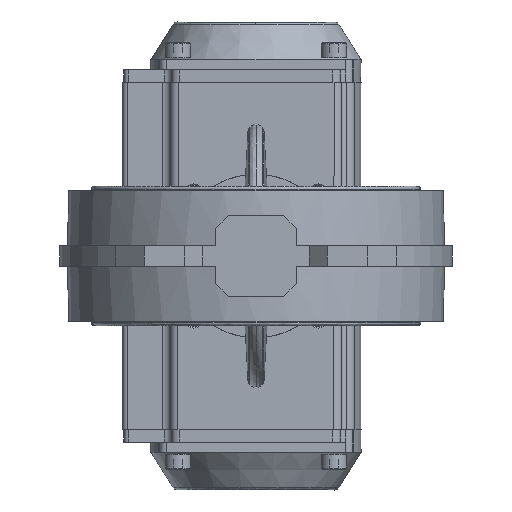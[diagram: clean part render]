
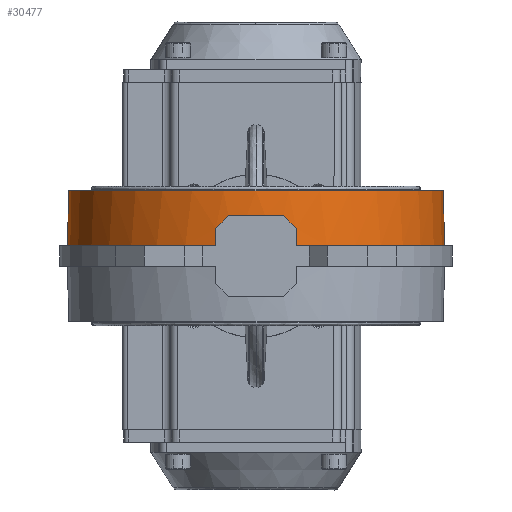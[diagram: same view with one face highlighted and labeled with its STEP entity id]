
A CAD part, front view. The second image highlights one B-rep face of the part: STEP entity #30477.
In plain terms, the highlighted conical face has half-angle 1 degrees and reference radius 74.884 mm.
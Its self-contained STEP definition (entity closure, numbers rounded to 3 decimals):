
#178 = CIRCLE ( 'NONE', #9711, 74.5 ) ;
#680 = VERTEX_POINT ( 'NONE', #68445 ) ;
#844 = CARTESIAN_POINT ( 'NONE',  ( 12.676, -73.64, 14.324 ) ) ;
#1044 = VERTEX_POINT ( 'NONE', #31276 ) ;
#2070 = VERTEX_POINT ( 'NONE', #33749 ) ;
#2642 = CARTESIAN_POINT ( 'NONE',  ( 16., -73.03, 11. ) ) ;
#3615 = VECTOR ( 'NONE', #9034, 1000. ) ;
#4183 = DIRECTION ( 'NONE',  ( -0.017, 0., -1. ) ) ;
#4397 = DIRECTION ( 'NONE',  ( -1., 0., 0. ) ) ;
#4438 = CARTESIAN_POINT ( 'NONE',  ( 16., -73.03, 11. ) ) ;
#7208 = CARTESIAN_POINT ( 'NONE',  ( 14.343, -73.363, 12.657 ) ) ;
#7360 = CARTESIAN_POINT ( 'NONE',  ( 0., 0., 4. ) ) ;
#8569 = CARTESIAN_POINT ( 'NONE',  ( -16., -73.071, 8.667 ) ) ;
#9034 = DIRECTION ( 'NONE',  ( 0.017, 0., -1. ) ) ;
#9626 = B_SPLINE_CURVE_WITH_KNOTS ( 'NONE', 3,
 ( #2642, #25768, #53783, #71325 ),
 .UNSPECIFIED., .F., .F.,
 ( 4, 4 ),
 ( 0., 0.007 ),
 .UNSPECIFIED. ) ;
#9711 = AXIS2_PLACEMENT_3D ( 'NONE', #10569, #38200, #54626 ) ;
#9748 = CARTESIAN_POINT ( 'NONE',  ( -74.884, 0., 4. ) ) ;
#9870 = EDGE_CURVE ( 'NONE', #10538, #52653, #53824, .T. ) ;
#10039 = CARTESIAN_POINT ( 'NONE',  ( -16., -73.03, 11. ) ) ;
#10538 = VERTEX_POINT ( 'NONE', #59213 ) ;
#10569 = CARTESIAN_POINT ( 'NONE',  ( 0., 0., 26. ) ) ;
#12746 = FACE_OUTER_BOUND ( 'NONE', #68097, .T. ) ;
#13728 = CARTESIAN_POINT ( 'NONE',  ( 74.884, 0., 4. ) ) ;
#13885 =( BOUNDED_CURVE ( )  B_SPLINE_CURVE ( 3, ( #29190, #844, #7208, #35158 ),
 .UNSPECIFIED., .F., .T. ) 
 B_SPLINE_CURVE_WITH_KNOTS ( ( 4, 4 ),
 ( 4.843, 4.911 ),
 .UNSPECIFIED. ) 
 CURVE ( )  GEOMETRIC_REPRESENTATION_ITEM ( )  RATIONAL_B_SPLINE_CURVE ( ( 1., 1., 1., 1. ) ) 
 REPRESENTATION_ITEM ( '' )  );
#16562 = ORIENTED_EDGE ( 'NONE', *, *, #33334, .T. ) ;
#19753 = CARTESIAN_POINT ( 'NONE',  ( -16., -73.113, 6.333 ) ) ;
#19978 = DIRECTION ( 'NONE',  ( 0., 0., 1. ) ) ;
#20006 = VERTEX_POINT ( 'NONE', #73046 ) ;
#22422 = AXIS2_PLACEMENT_3D ( 'NONE', #58236, #42566, #4397 ) ;
#24481 = EDGE_CURVE ( 'NONE', #680, #26305, #13885, .T. ) ;
#25357 = ORIENTED_EDGE ( 'NONE', *, *, #40774, .T. ) ;
#25704 = CARTESIAN_POINT ( 'NONE',  ( -11., -73.86, 16. ) ) ;
#25768 = CARTESIAN_POINT ( 'NONE',  ( 16., -73.071, 8.667 ) ) ;
#26305 = VERTEX_POINT ( 'NONE', #4438 ) ;
#26414 = ORIENTED_EDGE ( 'NONE', *, *, #37228, .T. ) ;
#26826 = CARTESIAN_POINT ( 'NONE',  ( -16., -73.155, 4. ) ) ;
#29190 = CARTESIAN_POINT ( 'NONE',  ( 11., -73.86, 16. ) ) ;
#29269 = ORIENTED_EDGE ( 'NONE', *, *, #24481, .T. ) ;
#29404 = CARTESIAN_POINT ( 'NONE',  ( -11., -73.86, 16. ) ) ;
#30477 = ADVANCED_FACE ( 'NONE', ( #12746 ), #34378, .T. ) ;
#30756 = VERTEX_POINT ( 'NONE', #32616 ) ;
#31133 = AXIS2_PLACEMENT_3D ( 'NONE', #62328, #57467, #62714 ) ;
#31276 = CARTESIAN_POINT ( 'NONE',  ( -74.884, 0., 4. ) ) ;
#32616 = CARTESIAN_POINT ( 'NONE',  ( -16., -73.155, 4. ) ) ;
#32652 = CARTESIAN_POINT ( 'NONE',  ( 0., 0., 16. ) ) ;
#33334 = EDGE_CURVE ( 'NONE', #70343, #1044, #50424, .T. ) ;
#33676 = B_SPLINE_CURVE_WITH_KNOTS ( 'NONE', 3,
 ( #26826, #19753, #8569, #10039 ),
 .UNSPECIFIED., .F., .F.,
 ( 4, 4 ),
 ( 0., 0.007 ),
 .UNSPECIFIED. ) ;
#33749 = CARTESIAN_POINT ( 'NONE',  ( 16., -73.155, 4. ) ) ;
#34341 = ORIENTED_EDGE ( 'NONE', *, *, #72262, .T. ) ;
#34378 = CONICAL_SURFACE ( 'NONE', #22422, 74.884, 0.017 ) ;
#35158 = CARTESIAN_POINT ( 'NONE',  ( 16., -73.03, 11. ) ) ;
#36438 = CARTESIAN_POINT ( 'NONE',  ( -74.5, 0., 26. ) ) ;
#36812 = DIRECTION ( 'NONE',  ( 0., 0., 1. ) ) ;
#37071 = EDGE_CURVE ( 'NONE', #2070, #52653, #63331, .T. ) ;
#37228 = EDGE_CURVE ( 'NONE', #20006, #67935, #45284, .T. ) ;
#38200 = DIRECTION ( 'NONE',  ( 0., 0., 1. ) ) ;
#38393 = CARTESIAN_POINT ( 'NONE',  ( -16., -73.03, 11. ) ) ;
#38770 = CARTESIAN_POINT ( 'NONE',  ( -12.676, -73.64, 14.324 ) ) ;
#39306 = VECTOR ( 'NONE', #4183, 1000. ) ;
#40774 = EDGE_CURVE ( 'NONE', #26305, #2070, #9626, .T. ) ;
#40928 = CARTESIAN_POINT ( 'NONE',  ( 74.884, 0., 4. ) ) ;
#42566 = DIRECTION ( 'NONE',  ( 0., 0., -1. ) ) ;
#42618 = AXIS2_PLACEMENT_3D ( 'NONE', #32652, #36812, #59523 ) ;
#43713 = ORIENTED_EDGE ( 'NONE', *, *, #47008, .T. ) ;
#45284 =( BOUNDED_CURVE ( )  B_SPLINE_CURVE ( 3, ( #38393, #61107, #38770, #29404 ),
 .UNSPECIFIED., .F., .T. ) 
 B_SPLINE_CURVE_WITH_KNOTS ( ( 4, 4 ),
 ( 1.372, 1.44 ),
 .UNSPECIFIED. ) 
 CURVE ( )  GEOMETRIC_REPRESENTATION_ITEM ( )  RATIONAL_B_SPLINE_CURVE ( ( 1., 1., 1., 1. ) ) 
 REPRESENTATION_ITEM ( '' )  );
#47008 = EDGE_CURVE ( 'NONE', #67935, #680, #61644, .T. ) ;
#50424 = LINE ( 'NONE', #9748, #39306 ) ;
#52653 = VERTEX_POINT ( 'NONE', #13728 ) ;
#53368 = AXIS2_PLACEMENT_3D ( 'NONE', #7360, #19978, #70392 ) ;
#53783 = CARTESIAN_POINT ( 'NONE',  ( 16., -73.113, 6.333 ) ) ;
#53824 = LINE ( 'NONE', #40928, #3615 ) ;
#54626 = DIRECTION ( 'NONE',  ( -1., 0., 0. ) ) ;
#56050 = ORIENTED_EDGE ( 'NONE', *, *, #62387, .F. ) ;
#57467 = DIRECTION ( 'NONE',  ( 0., 0., 1. ) ) ;
#57618 = ORIENTED_EDGE ( 'NONE', *, *, #37071, .T. ) ;
#57694 = EDGE_CURVE ( 'NONE', #30756, #20006, #33676, .T. ) ;
#58236 = CARTESIAN_POINT ( 'NONE',  ( 0., 0., 4. ) ) ;
#59213 = CARTESIAN_POINT ( 'NONE',  ( 74.5, 0., 26. ) ) ;
#59523 = DIRECTION ( 'NONE',  ( -1., 0., 0. ) ) ;
#61107 = CARTESIAN_POINT ( 'NONE',  ( -14.343, -73.363, 12.657 ) ) ;
#61644 = CIRCLE ( 'NONE', #42618, 74.675 ) ;
#62328 = CARTESIAN_POINT ( 'NONE',  ( 0., 0., 4. ) ) ;
#62387 = EDGE_CURVE ( 'NONE', #70343, #10538, #178, .T. ) ;
#62714 = DIRECTION ( 'NONE',  ( -1., 0., 0. ) ) ;
#63196 = ORIENTED_EDGE ( 'NONE', *, *, #57694, .T. ) ;
#63331 = CIRCLE ( 'NONE', #31133, 74.884 ) ;
#64266 = ORIENTED_EDGE ( 'NONE', *, *, #9870, .F. ) ;
#67935 = VERTEX_POINT ( 'NONE', #25704 ) ;
#68097 = EDGE_LOOP ( 'NONE', ( #64266, #56050, #16562, #34341, #63196, #26414, #43713, #29269, #25357, #57618 ) ) ;
#68445 = CARTESIAN_POINT ( 'NONE',  ( 11., -73.86, 16. ) ) ;
#70048 = CIRCLE ( 'NONE', #53368, 74.884 ) ;
#70343 = VERTEX_POINT ( 'NONE', #36438 ) ;
#70392 = DIRECTION ( 'NONE',  ( -1., 0., 0. ) ) ;
#71325 = CARTESIAN_POINT ( 'NONE',  ( 16., -73.155, 4. ) ) ;
#72262 = EDGE_CURVE ( 'NONE', #1044, #30756, #70048, .T. ) ;
#73046 = CARTESIAN_POINT ( 'NONE',  ( -16., -73.03, 11. ) ) ;
